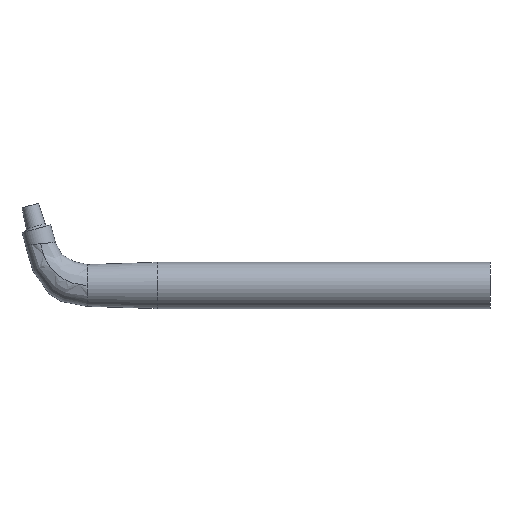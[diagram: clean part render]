
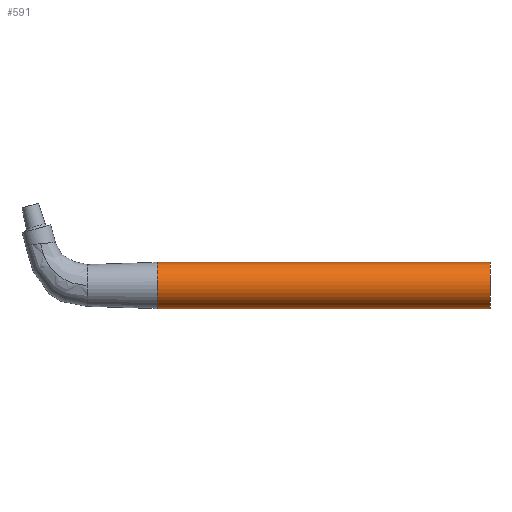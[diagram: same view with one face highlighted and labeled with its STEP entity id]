
A CAD part, top view. The second image highlights one B-rep face of the part: STEP entity #591.
In plain terms, the highlighted cylindrical face has radius 12.5 mm (diameter 25 mm), a partial arc.
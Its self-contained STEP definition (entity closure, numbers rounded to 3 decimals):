
#591=ADVANCED_FACE('',(#822),#821,.T.);
#821=CYLINDRICAL_SURFACE('',#2168,12.5);
#822=FACE_OUTER_BOUND('',#2169,.T.);
#2165=CARTESIAN_POINT('',(322.984,182.717,0.));
#2166=DIRECTION('',(-1.,0.,0.));
#2167=DIRECTION('',(0.,1.,0.));
#2168=AXIS2_PLACEMENT_3D('',#2165,#2166,#2167);
#2169=EDGE_LOOP('',(#2454,#2455,#2456,#2457));
#2454=ORIENTED_EDGE('',*,*,#2532,.T.);
#2455=ORIENTED_EDGE('',*,*,#2567,.T.);
#2456=ORIENTED_EDGE('',*,*,#2552,.T.);
#2457=ORIENTED_EDGE('',*,*,#2568,.F.);
#2532=EDGE_CURVE('',#2711,#2710,#2718,.T.);
#2552=EDGE_CURVE('',#2832,#2831,#2851,.T.);
#2567=EDGE_CURVE('',#2710,#2832,#2947,.T.);
#2568=EDGE_CURVE('',#2711,#2831,#2953,.T.);
#2710=VERTEX_POINT('',#3194);
#2711=VERTEX_POINT('',#3195);
#2718=CIRCLE('',#3203,12.5);
#2831=VERTEX_POINT('',#3285);
#2832=VERTEX_POINT('',#3286);
#2851=CIRCLE('',#3298,12.5);
#2947=(BOUNDED_CURVE() B_SPLINE_CURVE(1,(#3385,#3386),.UNSPECIFIED.,.F.,.F.) B_SPLINE_CURVE_WITH_KNOTS((2,2),(0.05,0.95),.UNSPECIFIED.) CURVE() GEOMETRIC_REPRESENTATION_ITEM() RATIONAL_B_SPLINE_CURVE((1.,1.)) REPRESENTATION_ITEM('') );
#2953=(BOUNDED_CURVE() B_SPLINE_CURVE(1,(#3387,#3388),.UNSPECIFIED.,.F.,.F.) B_SPLINE_CURVE_WITH_KNOTS((2,2),(0.05,0.95),.UNSPECIFIED.) CURVE() GEOMETRIC_REPRESENTATION_ITEM() RATIONAL_B_SPLINE_CURVE((0.75,0.75)) REPRESENTATION_ITEM('') );
#3194=CARTESIAN_POINT('',(502.984,195.217,0.));
#3195=CARTESIAN_POINT('',(502.984,170.217,0.));
#3200=CARTESIAN_POINT('',(502.984,182.717,0.));
#3201=DIRECTION('',(-1.,0.,0.));
#3202=DIRECTION('',(0.,-1.,0.));
#3203=AXIS2_PLACEMENT_3D('',#3200,#3201,#3202);
#3285=CARTESIAN_POINT('',(322.984,170.217,0.));
#3286=CARTESIAN_POINT('',(322.984,195.217,0.));
#3295=CARTESIAN_POINT('',(322.984,182.717,0.));
#3296=DIRECTION('',(1.,0.,0.));
#3297=DIRECTION('',(0.,1.,0.));
#3298=AXIS2_PLACEMENT_3D('',#3295,#3296,#3297);
#3385=CARTESIAN_POINT('',(502.984,195.217,0.));
#3386=CARTESIAN_POINT('',(322.984,195.217,0.));
#3387=CARTESIAN_POINT('',(502.984,170.217,0.));
#3388=CARTESIAN_POINT('',(322.984,170.217,0.));
